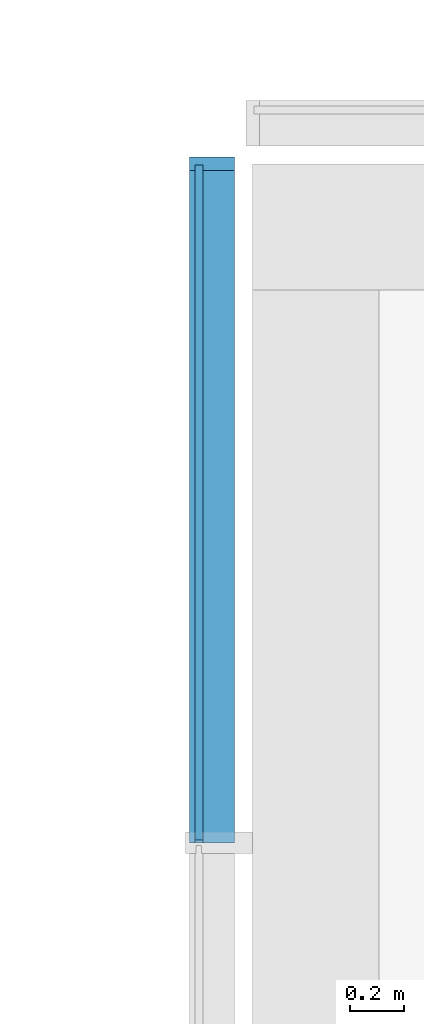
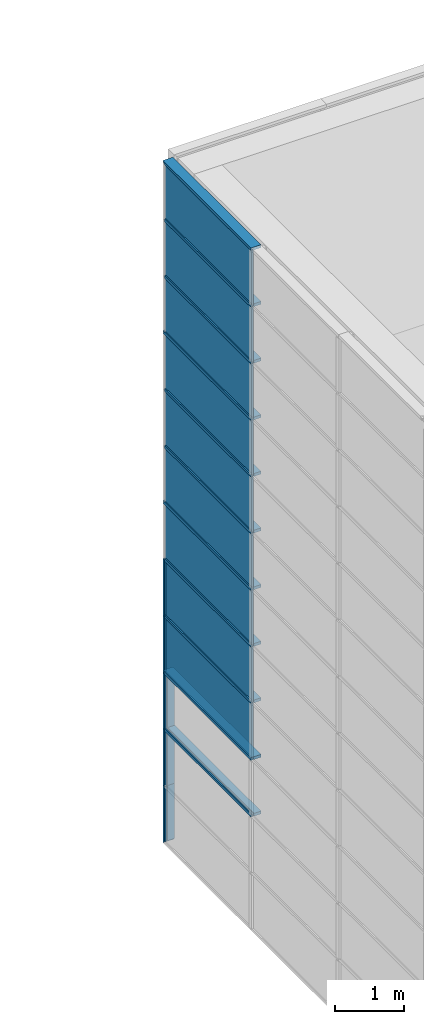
# One storey, part 38 of 105: 28 building element parts, 4 elements without a shape of their own.
"""IFC4 building model written with IfcOpenShell, lengths in millimetres."""

from ifc_helpers import new_model, entity, si_unit, converted_unit, derived_unit, direction, frame, origin_with_axes, place, context, subcontext, project, spatial, triangles, material, element, aggregate, save


model = new_model("IFC4")

# Units and contexts
model_context = context("Model", 3, precision=1e-05, world=origin_with_axes(), true_north=direction((0.0, 1.0)))
body_context = subcontext(model_context, "Body", "Model", "MODEL_VIEW")
ifc_project = project(units=[si_unit("LENGTHUNIT", "METRE", prefix="MILLI"), si_unit("AREAUNIT", "SQUARE_METRE"), si_unit("VOLUMEUNIT", "CUBIC_METRE"), converted_unit("PLANEANGLEUNIT", "DEGREE", entity("IfcLengthMeasure", 0.017453), si_unit("PLANEANGLEUNIT", "RADIAN"), dimensions=[0, 0, 0, 0, 0, 0, 0]), si_unit("SOLIDANGLEUNIT", "STERADIAN"), si_unit("MASSUNIT", "GRAM"), si_unit("TIMEUNIT", "SECOND"), si_unit("THERMODYNAMICTEMPERATUREUNIT", "DEGREE_CELSIUS"), si_unit("LUMINOUSINTENSITYUNIT", "LUMEN"), si_unit("POWERUNIT", "WATT"), derived_unit("THERMALTRANSMITTANCEUNIT", [(si_unit("POWERUNIT", "WATT"), 1), (si_unit("THERMODYNAMICTEMPERATUREUNIT", "KELVIN"), -1), (si_unit("AREAUNIT", "SQUARE_METRE"), -1)])], contexts=[model_context])

# Site, building, storey
site_placement = place(None, origin_with_axes())
site = spatial("IfcSite", under=ifc_project, at=site_placement, Name="Default Site", CompositionType="ELEMENT")
building_placement = place(site_placement, origin_with_axes())
building = spatial("IfcBuilding", under=site, at=building_placement, Name="Default Building", CompositionType="ELEMENT")
storey_placement = place(building_placement, origin_with_axes())
storey = spatial("IfcBuildingStorey", under=building, at=storey_placement, Name="OG - Story", CompositionType="ELEMENT", Elevation=0.0)

# Curtain wall, building element parts
curtain_wall_1_placement = place(storey_placement, origin_with_axes())
curtain_wall_1 = element("IfcCurtainWall", 1, at=curtain_wall_1_placement, inside=storey, Name="Fassade-003", PredefinedType="NOTDEFINED")
ifc_material_1 = material(Name="Blech")
building_element_part_1_placement = place(curtain_wall_1_placement, frame((31551.391327, -51326.104944, 0.0), z_axis=(0.0, 0.0, 1.0), x_axis=(1.0, 0.0, 0.0)))
building_element_part_1 = element("IfcBuildingElementPart", 2, at=building_element_part_1_placement, material=ifc_material_1, Name="Blech", PredefinedType="NOTDEFINED", context=body_context, shape_type="Tessellation", body=[
    triangles([(15.0, 46711.842, 1000.0), (133.0, 46711.842, 1000.0), (15.0, 46731.842, 1000.0), (133.0, 46761.842, 1000.0), (-14.999, 46731.842, 1000.0), (-34.999, 46761.842, 1000.0), (-14.999, 46711.842, 1000.0), (-34.999, 46711.842, 1000.0), (15.0, 46731.842, 5.0), (15.0, 46711.842, 25.0), (133.0, 46711.842, 25.0), (133.0, 46761.842, -24.999), (-34.999, 46761.842, -24.999), (-34.999, 46711.842, 25.0), (-14.999, 46711.842, 25.0), (-14.999, 46731.842, 5.0)], [[1, 2, 3], [3, 2, 4], [3, 4, 5], [5, 4, 6], [5, 6, 7], [7, 6, 8], [3, 9, 10], [3, 10, 1], [10, 11, 2], [10, 2, 1], [2, 11, 12], [2, 12, 4], [4, 12, 13], [4, 13, 6], [6, 13, 14], [6, 14, 8], [7, 8, 14], [7, 14, 15], [15, 16, 5], [15, 5, 7], [5, 16, 9], [5, 9, 3], [16, 9, 12], [16, 12, 13], [16, 13, 14], [16, 14, 15], [11, 12, 9], [11, 9, 10]], closed=False),
])
building_element_part_2_placement = place(curtain_wall_1_placement, frame((31551.391327, -51326.104944, 0.0), z_axis=(0.0, 0.0, 1.0), x_axis=(1.0, 0.0, 0.0)))
building_element_part_2 = element("IfcBuildingElementPart", 3, at=building_element_part_2_placement, material=ifc_material_1, Name="Blech", PredefinedType="NOTDEFINED", context=body_context, shape_type="Tessellation", body=[
    triangles([(15.0, 46711.842, 2000.0), (133.0, 46711.842, 2000.0), (15.0, 46731.842, 2000.0), (133.0, 46761.842, 2000.0), (-14.999, 46731.842, 2000.0), (-34.999, 46761.842, 2000.0), (-14.999, 46711.842, 2000.0), (-34.999, 46711.842, 2000.0), (15.0, 46731.842, 1000.0), (15.0, 46711.842, 1000.0), (133.0, 46711.842, 1000.0), (133.0, 46761.842, 1000.0), (-34.999, 46761.842, 1000.0), (-34.999, 46711.842, 1000.0), (-14.999, 46711.842, 1000.0), (-14.999, 46731.842, 1000.0)], [[1, 2, 3], [3, 2, 4], [3, 4, 5], [5, 4, 6], [5, 6, 7], [7, 6, 8], [3, 9, 10], [3, 10, 1], [10, 11, 2], [10, 2, 1], [11, 12, 4], [11, 4, 2], [12, 13, 6], [12, 6, 4], [13, 14, 8], [13, 8, 6], [7, 8, 14], [7, 14, 15], [15, 16, 5], [15, 5, 7], [5, 16, 9], [5, 9, 3], [10, 11, 9], [9, 11, 12], [9, 12, 16], [16, 12, 13], [16, 13, 15], [15, 13, 14]], closed=False),
])
building_element_part_3_placement = place(curtain_wall_1_placement, frame((31551.391327, -51326.104944, 0.0), z_axis=(0.0, 0.0, 1.0), x_axis=(1.0, 0.0, 0.0)))
building_element_part_3 = element("IfcBuildingElementPart", 4, at=building_element_part_3_placement, material=ifc_material_1, Name="Blech", PredefinedType="NOTDEFINED", context=body_context, shape_type="Tessellation", body=[
    triangles([(-14.999, 46711.842, 2025.0), (-34.999, 46711.842, 2025.0), (-14.999, 46711.842, 2005.0), (-14.999, 46711.842, 1995.0), (15.0, 46711.842, 2005.0), (133.0, 46711.842, 2025.0), (15.0, 46711.842, 2025.0), (-34.999, 46711.842, 1975.0), (-14.999, 46711.842, 1975.0), (15.0, 46711.842, 1995.0), (15.0, 46711.842, 1975.0), (133.0, 46711.842, 1975.0), (15.0, 44210.526, 1995.0), (-14.999, 44210.526, 1995.0), (-14.999, 44210.526, 1975.0), (-34.999, 44210.526, 1975.0), (-34.999, 44210.526, 2025.0), (-14.999, 44210.526, 2025.0), (-14.999, 44210.526, 2005.0), (15.0, 44210.526, 2005.0), (15.0, 44210.526, 2025.0), (133.0, 44210.526, 2025.0), (133.0, 44210.526, 1975.0), (15.0, 44210.526, 1975.0)], [[1, 2, 3], [3, 2, 4], [3, 4, 5], [5, 4, 6], [5, 6, 7], [8, 9, 4], [8, 4, 2], [6, 4, 10], [6, 10, 11], [6, 11, 12], [10, 13, 14], [10, 14, 4], [4, 14, 15], [4, 15, 9], [15, 16, 8], [15, 8, 9], [8, 16, 17], [8, 17, 2], [18, 1, 2], [18, 2, 17], [1, 18, 19], [1, 19, 3], [5, 3, 19], [5, 19, 20], [7, 5, 20], [7, 20, 21], [7, 21, 22], [7, 22, 6], [6, 22, 23], [6, 23, 12], [11, 12, 23], [11, 23, 24], [11, 24, 13], [11, 13, 10], [21, 22, 20], [20, 22, 13], [20, 13, 19], [19, 13, 14], [19, 14, 17], [17, 14, 15], [17, 15, 16], [23, 24, 13], [23, 13, 22], [19, 17, 18]], closed=False),
])
building_element_part_4_placement = place(curtain_wall_1_placement, frame((31551.391327, -51326.104944, 0.0), z_axis=(0.0, 0.0, 1.0), x_axis=(1.0, 0.0, 0.0)))
building_element_part_4 = element("IfcBuildingElementPart", 5, at=building_element_part_4_placement, material=ifc_material_1, Name="Blech", PredefinedType="NOTDEFINED", context=body_context, shape_type="Tessellation", body=[
    triangles([(-14.999, 46731.842, 2995.0), (15.0, 46731.842, 2995.0), (133.0, 46761.842, 3025.0), (-34.999, 46761.842, 3025.0), (-34.999, 46711.842, 2975.0), (-14.999, 46711.842, 2975.0), (15.0, 46711.842, 2975.0), (133.0, 46711.842, 2975.0), (15.0, 46731.842, 2000.0), (15.0, 46711.842, 2000.0), (133.0, 46711.842, 2000.0), (133.0, 46761.842, 2000.0), (-34.999, 46761.842, 2000.0), (-34.999, 46711.842, 2000.0), (-14.999, 46711.842, 2000.0), (-14.999, 46731.842, 2000.0)], [[1, 2, 3], [1, 3, 4], [1, 4, 5], [1, 5, 6], [7, 8, 3], [7, 3, 2], [2, 9, 10], [2, 10, 7], [10, 11, 8], [10, 8, 7], [11, 12, 3], [11, 3, 8], [12, 13, 4], [12, 4, 3], [13, 14, 5], [13, 5, 4], [6, 5, 14], [6, 14, 15], [15, 16, 1], [15, 1, 6], [1, 16, 9], [1, 9, 2], [10, 11, 9], [9, 11, 12], [9, 12, 16], [16, 12, 13], [16, 13, 15], [15, 13, 14]], closed=False),
])
building_element_part_5_placement = place(curtain_wall_1_placement, frame((31551.391327, -51326.104944, 0.0), z_axis=(0.0, 0.0, 1.0), x_axis=(1.0, 0.0, 0.0)))
building_element_part_5 = element("IfcBuildingElementPart", 6, at=building_element_part_5_placement, material=ifc_material_1, Name="Blech", PredefinedType="NOTDEFINED", context=body_context, shape_type="Tessellation", body=[
    triangles([(-14.999, 46731.842, 2995.0), (15.0, 46731.842, 2995.0), (133.0, 46761.842, 3025.0), (-34.999, 46761.842, 3025.0), (-34.999, 46711.842, 2975.0), (-14.999, 46711.842, 2975.0), (15.0, 46711.842, 2975.0), (133.0, 46711.842, 2975.0), (15.0, 44210.526, 2995.0), (-14.999, 44210.526, 2995.0), (-14.999, 44210.526, 2975.0), (-34.999, 44210.526, 2975.0), (-34.999, 44210.526, 3025.0), (133.0, 44210.526, 3025.0), (133.0, 44210.526, 2975.0), (15.0, 44210.526, 2975.0)], [[1, 2, 3], [1, 3, 4], [1, 4, 5], [1, 5, 6], [7, 8, 3], [7, 3, 2], [1, 2, 9], [1, 9, 10], [11, 6, 1], [11, 1, 10], [6, 11, 12], [6, 12, 5], [13, 4, 5], [13, 5, 12], [14, 3, 4], [14, 4, 13], [15, 8, 3], [15, 3, 14], [16, 7, 8], [16, 8, 15], [2, 7, 16], [2, 16, 9], [10, 9, 14], [10, 14, 13], [10, 13, 12], [10, 12, 11], [16, 15, 14], [16, 14, 9]], closed=False),
])
aggregate(curtain_wall_1, [building_element_part_1, building_element_part_2, building_element_part_3, building_element_part_4, building_element_part_5])

curtain_wall_2_placement = place(storey_placement, origin_with_axes())
curtain_wall_2 = element("IfcCurtainWall", 7, at=curtain_wall_2_placement, inside=storey, Name="Fassade-003", PredefinedType="NOTDEFINED")
ifc_material_2 = material(Name="Normalglas")
building_element_part_6_placement = place(curtain_wall_2_placement, frame((31551.391327, -51326.104944, 3000.0), z_axis=(0.0, 0.0, 1.0), x_axis=(1.0, 0.0, 0.0)))
building_element_part_6 = element("IfcBuildingElementPart", 8, at=building_element_part_6_placement, material=ifc_material_2, Name="Normalglas", PredefinedType="NOTDEFINED", context=body_context, shape_type="Tessellation", body=[
    triangles([(15.0, 46731.842, 995.0), (-14.999, 46731.842, 995.0), (-14.999, 44220.526, 995.0), (15.0, 44220.526, 995.0), (15.0, 46731.842, 5.0), (-14.999, 46731.842, 5.0), (-14.999, 44220.526, 5.0), (15.0, 44220.526, 5.0)], [[1, 2, 3], [1, 3, 4], [5, 6, 2], [5, 2, 1], [2, 6, 7], [2, 7, 3], [4, 3, 7], [4, 7, 8], [1, 4, 8], [1, 8, 5], [8, 7, 6], [8, 6, 5]], closed=False),
])
building_element_part_7_placement = place(curtain_wall_2_placement, frame((31551.391327, -51326.104944, 3000.0), z_axis=(0.0, 0.0, 1.0), x_axis=(1.0, 0.0, 0.0)))
building_element_part_7 = element("IfcBuildingElementPart", 9, at=building_element_part_7_placement, material=ifc_material_2, Name="Normalglas", PredefinedType="NOTDEFINED", context=body_context, shape_type="Tessellation", body=[
    triangles([(15.0, 46731.842, 1995.0), (-14.999, 46731.842, 1995.0), (-14.999, 44220.526, 1995.0), (15.0, 44220.526, 1995.0), (15.0, 46731.842, 1005.0), (-14.999, 46731.842, 1005.0), (-14.999, 44220.526, 1005.0), (15.0, 44220.526, 1005.0)], [[1, 2, 3], [1, 3, 4], [5, 6, 2], [5, 2, 1], [2, 6, 7], [2, 7, 3], [4, 3, 7], [4, 7, 8], [1, 4, 8], [1, 8, 5], [8, 7, 6], [8, 6, 5]], closed=False),
])
building_element_part_8_placement = place(curtain_wall_2_placement, frame((31551.391327, -51326.104944, 3000.0), z_axis=(0.0, 0.0, 1.0), x_axis=(1.0, 0.0, 0.0)))
building_element_part_8 = element("IfcBuildingElementPart", 10, at=building_element_part_8_placement, material=ifc_material_2, Name="Normalglas", PredefinedType="NOTDEFINED", context=body_context, shape_type="Tessellation", body=[
    triangles([(15.0, 46731.842, 2995.0), (-14.999, 46731.842, 2995.0), (-14.999, 44220.526, 2995.0), (15.0, 44220.526, 2995.0), (15.0, 46731.842, 2005.0), (-14.999, 46731.842, 2005.0), (-14.999, 44220.526, 2005.0), (15.0, 44220.526, 2005.0)], [[1, 2, 3], [1, 3, 4], [5, 6, 2], [5, 2, 1], [2, 6, 7], [2, 7, 3], [4, 3, 7], [4, 7, 8], [1, 4, 8], [1, 8, 5], [8, 7, 6], [8, 6, 5]], closed=False),
])
building_element_part_9_placement = place(curtain_wall_2_placement, frame((31551.391327, -51326.104944, 3000.0), z_axis=(0.0, 0.0, 1.0), x_axis=(1.0, 0.0, 0.0)))
building_element_part_9 = element("IfcBuildingElementPart", 11, at=building_element_part_9_placement, material=ifc_material_1, Name="Blech", PredefinedType="NOTDEFINED", context=body_context, shape_type="Tessellation", body=[
    triangles([(15.0, 46711.842, 25.0), (133.0, 46711.842, 25.0), (15.0, 46731.842, 5.0), (133.0, 46761.842, -24.999), (-14.999, 46731.842, 5.0), (-34.999, 46761.842, -24.999), (-34.999, 46711.842, 25.0), (-14.999, 46711.842, 25.0), (15.0, 44210.526, 5.0), (15.0, 44210.526, 25.0), (133.0, 44210.526, 25.0), (133.0, 44210.526, -24.999), (-34.999, 44210.526, -24.999), (-34.999, 44210.526, 25.0), (-14.999, 44210.526, 25.0), (-14.999, 44210.526, 5.0)], [[1, 2, 3], [3, 2, 4], [3, 4, 5], [5, 4, 6], [5, 6, 7], [5, 7, 8], [3, 9, 10], [3, 10, 1], [10, 11, 2], [10, 2, 1], [11, 12, 4], [11, 4, 2], [12, 13, 6], [12, 6, 4], [13, 14, 7], [13, 7, 6], [8, 7, 14], [8, 14, 15], [15, 16, 5], [15, 5, 8], [5, 16, 9], [5, 9, 3], [16, 9, 12], [16, 12, 13], [16, 13, 14], [16, 14, 15], [11, 12, 9], [11, 9, 10]], closed=False),
])
building_element_part_10_placement = place(curtain_wall_2_placement, frame((31551.391327, -51326.104944, 3000.0), z_axis=(0.0, 0.0, 1.0), x_axis=(1.0, 0.0, 0.0)))
building_element_part_10 = element("IfcBuildingElementPart", 12, at=building_element_part_10_placement, material=ifc_material_1, Name="Blech", PredefinedType="NOTDEFINED", context=body_context, shape_type="Tessellation", body=[
    triangles([(15.0, 46711.842, 1000.0), (133.0, 46711.842, 1000.0), (15.0, 46731.842, 1000.0), (133.0, 46761.842, 1000.0), (-14.999, 46731.842, 1000.0), (-34.999, 46761.842, 1000.0), (-14.999, 46711.842, 1000.0), (-34.999, 46711.842, 1000.0), (15.0, 46731.842, 5.0), (15.0, 46711.842, 25.0), (133.0, 46711.842, 25.0), (133.0, 46761.842, -24.999), (-34.999, 46761.842, -24.999), (-34.999, 46711.842, 25.0), (-14.999, 46711.842, 25.0), (-14.999, 46731.842, 5.0)], [[1, 2, 3], [3, 2, 4], [3, 4, 5], [5, 4, 6], [5, 6, 7], [7, 6, 8], [3, 9, 10], [3, 10, 1], [10, 11, 2], [10, 2, 1], [2, 11, 12], [2, 12, 4], [4, 12, 13], [4, 13, 6], [6, 13, 14], [6, 14, 8], [7, 8, 14], [7, 14, 15], [15, 16, 5], [15, 5, 7], [5, 16, 9], [5, 9, 3], [16, 9, 12], [16, 12, 13], [16, 13, 14], [16, 14, 15], [11, 12, 9], [11, 9, 10]], closed=False),
])
building_element_part_11_placement = place(curtain_wall_2_placement, frame((31551.391327, -51326.104944, 3000.0), z_axis=(0.0, 0.0, 1.0), x_axis=(1.0, 0.0, 0.0)))
building_element_part_11 = element("IfcBuildingElementPart", 13, at=building_element_part_11_placement, material=ifc_material_1, Name="Blech", PredefinedType="NOTDEFINED", context=body_context, shape_type="Tessellation", body=[
    triangles([(-14.999, 46711.842, 1025.0), (-34.999, 46711.842, 1025.0), (-14.999, 46711.842, 1005.0), (-14.999, 46711.842, 995.0), (15.0, 46711.842, 1005.0), (133.0, 46711.842, 1025.0), (15.0, 46711.842, 1025.0), (-34.999, 46711.842, 975.0), (-14.999, 46711.842, 975.0), (15.0, 46711.842, 995.0), (15.0, 46711.842, 975.0), (133.0, 46711.842, 975.0), (15.0, 44210.526, 995.0), (-14.999, 44210.526, 995.0), (-14.999, 44210.526, 975.0), (-34.999, 44210.526, 975.0), (-34.999, 44210.526, 1025.0), (-14.999, 44210.526, 1025.0), (-14.999, 44210.526, 1005.0), (15.0, 44210.526, 1005.0), (15.0, 44210.526, 1025.0), (133.0, 44210.526, 1025.0), (133.0, 44210.526, 975.0), (15.0, 44210.526, 975.0)], [[1, 2, 3], [3, 2, 4], [3, 4, 5], [5, 4, 6], [5, 6, 7], [8, 9, 4], [8, 4, 2], [6, 4, 10], [6, 10, 11], [6, 11, 12], [10, 13, 14], [10, 14, 4], [4, 14, 15], [4, 15, 9], [15, 16, 8], [15, 8, 9], [8, 16, 17], [8, 17, 2], [18, 1, 2], [18, 2, 17], [1, 18, 19], [1, 19, 3], [5, 3, 19], [5, 19, 20], [7, 5, 20], [7, 20, 21], [7, 21, 22], [7, 22, 6], [6, 22, 23], [6, 23, 12], [11, 12, 23], [11, 23, 24], [11, 24, 13], [11, 13, 10], [21, 22, 20], [20, 22, 13], [20, 13, 19], [19, 13, 14], [19, 14, 17], [17, 14, 15], [17, 15, 16], [23, 24, 13], [23, 13, 22], [19, 17, 18]], closed=False),
])
building_element_part_12_placement = place(curtain_wall_2_placement, frame((31551.391327, -51326.104944, 3000.0), z_axis=(0.0, 0.0, 1.0), x_axis=(1.0, 0.0, 0.0)))
building_element_part_12 = element("IfcBuildingElementPart", 14, at=building_element_part_12_placement, material=ifc_material_1, Name="Blech", PredefinedType="NOTDEFINED", context=body_context, shape_type="Tessellation", body=[
    triangles([(15.0, 46711.842, 2000.0), (133.0, 46711.842, 2000.0), (15.0, 46731.842, 2000.0), (133.0, 46761.842, 2000.0), (-14.999, 46731.842, 2000.0), (-34.999, 46761.842, 2000.0), (-14.999, 46711.842, 2000.0), (-34.999, 46711.842, 2000.0), (15.0, 46731.842, 1000.0), (15.0, 46711.842, 1000.0), (133.0, 46711.842, 1000.0), (133.0, 46761.842, 1000.0), (-34.999, 46761.842, 1000.0), (-34.999, 46711.842, 1000.0), (-14.999, 46711.842, 1000.0), (-14.999, 46731.842, 1000.0)], [[1, 2, 3], [3, 2, 4], [3, 4, 5], [5, 4, 6], [5, 6, 7], [7, 6, 8], [3, 9, 10], [3, 10, 1], [10, 11, 2], [10, 2, 1], [11, 12, 4], [11, 4, 2], [12, 13, 6], [12, 6, 4], [13, 14, 8], [13, 8, 6], [7, 8, 14], [7, 14, 15], [15, 16, 5], [15, 5, 7], [5, 16, 9], [5, 9, 3], [10, 11, 9], [9, 11, 12], [9, 12, 16], [16, 12, 13], [16, 13, 15], [15, 13, 14]], closed=False),
])
building_element_part_13_placement = place(curtain_wall_2_placement, frame((31551.391327, -51326.104944, 3000.0), z_axis=(0.0, 0.0, 1.0), x_axis=(1.0, 0.0, 0.0)))
building_element_part_13 = element("IfcBuildingElementPart", 15, at=building_element_part_13_placement, material=ifc_material_1, Name="Blech", PredefinedType="NOTDEFINED", context=body_context, shape_type="Tessellation", body=[
    triangles([(-14.999, 46711.842, 2025.0), (-34.999, 46711.842, 2025.0), (-14.999, 46711.842, 2005.0), (-14.999, 46711.842, 1995.0), (15.0, 46711.842, 2005.0), (133.0, 46711.842, 2025.0), (15.0, 46711.842, 2025.0), (-34.999, 46711.842, 1975.0), (-14.999, 46711.842, 1975.0), (15.0, 46711.842, 1995.0), (15.0, 46711.842, 1975.0), (133.0, 46711.842, 1975.0), (15.0, 44210.526, 1995.0), (-14.999, 44210.526, 1995.0), (-14.999, 44210.526, 1975.0), (-34.999, 44210.526, 1975.0), (-34.999, 44210.526, 2025.0), (-14.999, 44210.526, 2025.0), (-14.999, 44210.526, 2005.0), (15.0, 44210.526, 2005.0), (15.0, 44210.526, 2025.0), (133.0, 44210.526, 2025.0), (133.0, 44210.526, 1975.0), (15.0, 44210.526, 1975.0)], [[1, 2, 3], [3, 2, 4], [3, 4, 5], [5, 4, 6], [5, 6, 7], [8, 9, 4], [8, 4, 2], [6, 4, 10], [6, 10, 11], [6, 11, 12], [10, 13, 14], [10, 14, 4], [4, 14, 15], [4, 15, 9], [15, 16, 8], [15, 8, 9], [8, 16, 17], [8, 17, 2], [18, 1, 2], [18, 2, 17], [1, 18, 19], [1, 19, 3], [5, 3, 19], [5, 19, 20], [7, 5, 20], [7, 20, 21], [7, 21, 22], [7, 22, 6], [6, 22, 23], [6, 23, 12], [11, 12, 23], [11, 23, 24], [11, 24, 13], [11, 13, 10], [21, 22, 20], [20, 22, 13], [20, 13, 19], [19, 13, 14], [19, 14, 17], [17, 14, 15], [17, 15, 16], [23, 24, 13], [23, 13, 22], [19, 17, 18]], closed=False),
])
building_element_part_14_placement = place(curtain_wall_2_placement, frame((31551.391327, -51326.104944, 3000.0), z_axis=(0.0, 0.0, 1.0), x_axis=(1.0, 0.0, 0.0)))
building_element_part_14 = element("IfcBuildingElementPart", 16, at=building_element_part_14_placement, material=ifc_material_1, Name="Blech", PredefinedType="NOTDEFINED", context=body_context, shape_type="Tessellation", body=[
    triangles([(-14.999, 46731.842, 2995.0), (15.0, 46731.842, 2995.0), (133.0, 46761.842, 3025.0), (-34.999, 46761.842, 3025.0), (-34.999, 46711.842, 2975.0), (-14.999, 46711.842, 2975.0), (15.0, 46711.842, 2975.0), (133.0, 46711.842, 2975.0), (15.0, 44210.526, 2995.0), (-14.999, 44210.526, 2995.0), (-14.999, 44210.526, 2975.0), (-34.999, 44210.526, 2975.0), (-34.999, 44210.526, 3025.0), (133.0, 44210.526, 3025.0), (133.0, 44210.526, 2975.0), (15.0, 44210.526, 2975.0)], [[1, 2, 3], [1, 3, 4], [1, 4, 5], [1, 5, 6], [7, 8, 3], [7, 3, 2], [1, 2, 9], [1, 9, 10], [11, 6, 1], [11, 1, 10], [6, 11, 12], [6, 12, 5], [13, 4, 5], [13, 5, 12], [14, 3, 4], [14, 4, 13], [15, 8, 3], [15, 3, 14], [16, 7, 8], [16, 8, 15], [2, 7, 16], [2, 16, 9], [10, 9, 14], [10, 14, 13], [10, 13, 12], [10, 12, 11], [16, 15, 14], [16, 14, 9]], closed=False),
])
aggregate(curtain_wall_2, [building_element_part_6, building_element_part_7, building_element_part_8, building_element_part_9, building_element_part_10, building_element_part_11, building_element_part_12, building_element_part_13, building_element_part_14])

curtain_wall_3_placement = place(storey_placement, origin_with_axes())
curtain_wall_3 = element("IfcCurtainWall", 17, at=curtain_wall_3_placement, inside=storey, Name="Fassade-003", PredefinedType="NOTDEFINED")
building_element_part_15_placement = place(curtain_wall_3_placement, frame((31551.391327, -51326.104944, 6000.0), z_axis=(0.0, 0.0, 1.0), x_axis=(1.0, 0.0, 0.0)))
building_element_part_15 = element("IfcBuildingElementPart", 18, at=building_element_part_15_placement, material=ifc_material_2, Name="Normalglas", PredefinedType="NOTDEFINED", context=body_context, shape_type="Tessellation", body=[
    triangles([(15.0, 46731.842, 995.0), (-14.999, 46731.842, 995.0), (-14.999, 44220.526, 995.0), (15.0, 44220.526, 995.0), (15.0, 46731.842, 5.0), (-14.999, 46731.842, 5.0), (-14.999, 44220.526, 5.0), (15.0, 44220.526, 5.0)], [[1, 2, 3], [1, 3, 4], [5, 6, 2], [5, 2, 1], [2, 6, 7], [2, 7, 3], [4, 3, 7], [4, 7, 8], [1, 4, 8], [1, 8, 5], [8, 7, 6], [8, 6, 5]], closed=False),
])
building_element_part_16_placement = place(curtain_wall_3_placement, frame((31551.391327, -51326.104944, 6000.0), z_axis=(0.0, 0.0, 1.0), x_axis=(1.0, 0.0, 0.0)))
building_element_part_16 = element("IfcBuildingElementPart", 19, at=building_element_part_16_placement, material=ifc_material_2, Name="Normalglas", PredefinedType="NOTDEFINED", context=body_context, shape_type="Tessellation", body=[
    triangles([(15.0, 46731.842, 1995.0), (-14.999, 46731.842, 1995.0), (-14.999, 44220.526, 1995.0), (15.0, 44220.526, 1995.0), (15.0, 46731.842, 1005.0), (-14.999, 46731.842, 1005.0), (-14.999, 44220.526, 1005.0), (15.0, 44220.526, 1005.0)], [[1, 2, 3], [1, 3, 4], [5, 6, 2], [5, 2, 1], [2, 6, 7], [2, 7, 3], [4, 3, 7], [4, 7, 8], [1, 4, 8], [1, 8, 5], [8, 7, 6], [8, 6, 5]], closed=False),
])
building_element_part_17_placement = place(curtain_wall_3_placement, frame((31551.391327, -51326.104944, 6000.0), z_axis=(0.0, 0.0, 1.0), x_axis=(1.0, 0.0, 0.0)))
building_element_part_17 = element("IfcBuildingElementPart", 20, at=building_element_part_17_placement, material=ifc_material_2, Name="Normalglas", PredefinedType="NOTDEFINED", context=body_context, shape_type="Tessellation", body=[
    triangles([(15.0, 46731.842, 2995.0), (-14.999, 46731.842, 2995.0), (-14.999, 44220.526, 2995.0), (15.0, 44220.526, 2995.0), (15.0, 46731.842, 2005.0), (-14.999, 46731.842, 2005.0), (-14.999, 44220.526, 2005.0), (15.0, 44220.526, 2005.0)], [[1, 2, 3], [1, 3, 4], [5, 6, 2], [5, 2, 1], [2, 6, 7], [2, 7, 3], [4, 3, 7], [4, 7, 8], [1, 4, 8], [1, 8, 5], [8, 7, 6], [8, 6, 5]], closed=False),
])
building_element_part_18_placement = place(curtain_wall_3_placement, frame((31551.391327, -51326.104944, 6000.0), z_axis=(0.0, 0.0, 1.0), x_axis=(1.0, 0.0, 0.0)))
building_element_part_18 = element("IfcBuildingElementPart", 21, at=building_element_part_18_placement, material=ifc_material_1, Name="Blech", PredefinedType="NOTDEFINED", context=body_context, shape_type="Tessellation", body=[
    triangles([(15.0, 46711.842, 25.0), (133.0, 46711.842, 25.0), (15.0, 46731.842, 5.0), (133.0, 46761.842, -24.999), (-14.999, 46731.842, 5.0), (-34.999, 46761.842, -24.999), (-34.999, 46711.842, 25.0), (-14.999, 46711.842, 25.0), (15.0, 44210.526, 5.0), (15.0, 44210.526, 25.0), (133.0, 44210.526, 25.0), (133.0, 44210.526, -24.999), (-34.999, 44210.526, -24.999), (-34.999, 44210.526, 25.0), (-14.999, 44210.526, 25.0), (-14.999, 44210.526, 5.0)], [[1, 2, 3], [3, 2, 4], [3, 4, 5], [5, 4, 6], [5, 6, 7], [5, 7, 8], [3, 9, 10], [3, 10, 1], [10, 11, 2], [10, 2, 1], [11, 12, 4], [11, 4, 2], [12, 13, 6], [12, 6, 4], [13, 14, 7], [13, 7, 6], [8, 7, 14], [8, 14, 15], [15, 16, 5], [15, 5, 8], [5, 16, 9], [5, 9, 3], [16, 9, 12], [16, 12, 13], [16, 13, 14], [16, 14, 15], [11, 12, 9], [11, 9, 10]], closed=False),
])
building_element_part_19_placement = place(curtain_wall_3_placement, frame((31551.391327, -51326.104944, 6000.0), z_axis=(0.0, 0.0, 1.0), x_axis=(1.0, 0.0, 0.0)))
building_element_part_19 = element("IfcBuildingElementPart", 22, at=building_element_part_19_placement, material=ifc_material_1, Name="Blech", PredefinedType="NOTDEFINED", context=body_context, shape_type="Tessellation", body=[
    triangles([(-14.999, 46711.842, 1025.0), (-34.999, 46711.842, 1025.0), (-14.999, 46711.842, 1005.0), (-14.999, 46711.842, 995.0), (15.0, 46711.842, 1005.0), (133.0, 46711.842, 1025.0), (15.0, 46711.842, 1025.0), (-34.999, 46711.842, 975.0), (-14.999, 46711.842, 975.0), (15.0, 46711.842, 995.0), (15.0, 46711.842, 975.0), (133.0, 46711.842, 975.0), (15.0, 44210.526, 995.0), (-14.999, 44210.526, 995.0), (-14.999, 44210.526, 975.0), (-34.999, 44210.526, 975.0), (-34.999, 44210.526, 1025.0), (-14.999, 44210.526, 1025.0), (-14.999, 44210.526, 1005.0), (15.0, 44210.526, 1005.0), (15.0, 44210.526, 1025.0), (133.0, 44210.526, 1025.0), (133.0, 44210.526, 975.0), (15.0, 44210.526, 975.0)], [[1, 2, 3], [3, 2, 4], [3, 4, 5], [5, 4, 6], [5, 6, 7], [8, 9, 4], [8, 4, 2], [6, 4, 10], [6, 10, 11], [6, 11, 12], [10, 13, 14], [10, 14, 4], [4, 14, 15], [4, 15, 9], [15, 16, 8], [15, 8, 9], [8, 16, 17], [8, 17, 2], [18, 1, 2], [18, 2, 17], [1, 18, 19], [1, 19, 3], [5, 3, 19], [5, 19, 20], [7, 5, 20], [7, 20, 21], [7, 21, 22], [7, 22, 6], [6, 22, 23], [6, 23, 12], [11, 12, 23], [11, 23, 24], [11, 24, 13], [11, 13, 10], [21, 22, 20], [20, 22, 13], [20, 13, 19], [19, 13, 14], [19, 14, 17], [17, 14, 15], [17, 15, 16], [23, 24, 13], [23, 13, 22], [19, 17, 18]], closed=False),
])
building_element_part_20_placement = place(curtain_wall_3_placement, frame((31551.391327, -51326.104944, 6000.0), z_axis=(0.0, 0.0, 1.0), x_axis=(1.0, 0.0, 0.0)))
building_element_part_20 = element("IfcBuildingElementPart", 23, at=building_element_part_20_placement, material=ifc_material_1, Name="Blech", PredefinedType="NOTDEFINED", context=body_context, shape_type="Tessellation", body=[
    triangles([(-14.999, 46711.842, 2025.0), (-34.999, 46711.842, 2025.0), (-14.999, 46711.842, 2005.0), (-14.999, 46711.842, 1995.0), (15.0, 46711.842, 2005.0), (133.0, 46711.842, 2025.0), (15.0, 46711.842, 2025.0), (-34.999, 46711.842, 1975.0), (-14.999, 46711.842, 1975.0), (15.0, 46711.842, 1995.0), (15.0, 46711.842, 1975.0), (133.0, 46711.842, 1975.0), (15.0, 44210.526, 1995.0), (-14.999, 44210.526, 1995.0), (-14.999, 44210.526, 1975.0), (-34.999, 44210.526, 1975.0), (-34.999, 44210.526, 2025.0), (-14.999, 44210.526, 2025.0), (-14.999, 44210.526, 2005.0), (15.0, 44210.526, 2005.0), (15.0, 44210.526, 2025.0), (133.0, 44210.526, 2025.0), (133.0, 44210.526, 1975.0), (15.0, 44210.526, 1975.0)], [[1, 2, 3], [3, 2, 4], [3, 4, 5], [5, 4, 6], [5, 6, 7], [8, 9, 4], [8, 4, 2], [6, 4, 10], [6, 10, 11], [6, 11, 12], [10, 13, 14], [10, 14, 4], [4, 14, 15], [4, 15, 9], [15, 16, 8], [15, 8, 9], [8, 16, 17], [8, 17, 2], [18, 1, 2], [18, 2, 17], [1, 18, 19], [1, 19, 3], [5, 3, 19], [5, 19, 20], [7, 5, 20], [7, 20, 21], [7, 21, 22], [7, 22, 6], [6, 22, 23], [6, 23, 12], [11, 12, 23], [11, 23, 24], [11, 24, 13], [11, 13, 10], [21, 22, 20], [20, 22, 13], [20, 13, 19], [19, 13, 14], [19, 14, 17], [17, 14, 15], [17, 15, 16], [23, 24, 13], [23, 13, 22], [19, 17, 18]], closed=False),
])
building_element_part_21_placement = place(curtain_wall_3_placement, frame((31551.391327, -51326.104944, 6000.0), z_axis=(0.0, 0.0, 1.0), x_axis=(1.0, 0.0, 0.0)))
building_element_part_21 = element("IfcBuildingElementPart", 24, at=building_element_part_21_placement, material=ifc_material_1, Name="Blech", PredefinedType="NOTDEFINED", context=body_context, shape_type="Tessellation", body=[
    triangles([(-14.999, 46731.842, 2995.0), (15.0, 46731.842, 2995.0), (133.0, 46761.842, 3025.0), (-34.999, 46761.842, 3025.0), (-34.999, 46711.842, 2975.0), (-14.999, 46711.842, 2975.0), (15.0, 46711.842, 2975.0), (133.0, 46711.842, 2975.0), (15.0, 44210.526, 2995.0), (-14.999, 44210.526, 2995.0), (-14.999, 44210.526, 2975.0), (-34.999, 44210.526, 2975.0), (-34.999, 44210.526, 3025.0), (133.0, 44210.526, 3025.0), (133.0, 44210.526, 2975.0), (15.0, 44210.526, 2975.0)], [[1, 2, 3], [1, 3, 4], [1, 4, 5], [1, 5, 6], [7, 8, 3], [7, 3, 2], [1, 2, 9], [1, 9, 10], [11, 6, 1], [11, 1, 10], [6, 11, 12], [6, 12, 5], [13, 4, 5], [13, 5, 12], [14, 3, 4], [14, 4, 13], [15, 8, 3], [15, 3, 14], [16, 7, 8], [16, 8, 15], [2, 7, 16], [2, 16, 9], [10, 9, 14], [10, 14, 13], [10, 13, 12], [10, 12, 11], [16, 15, 14], [16, 14, 9]], closed=False),
])
aggregate(curtain_wall_3, [building_element_part_15, building_element_part_16, building_element_part_17, building_element_part_18, building_element_part_19, building_element_part_20, building_element_part_21])

curtain_wall_4_placement = place(storey_placement, origin_with_axes())
curtain_wall_4 = element("IfcCurtainWall", 25, at=curtain_wall_4_placement, inside=storey, Name="Fassade-003", PredefinedType="NOTDEFINED")
building_element_part_22_placement = place(curtain_wall_4_placement, frame((31551.391327, -51326.104944, 9000.0), z_axis=(0.0, 0.0, 1.0), x_axis=(1.0, 0.0, 0.0)))
building_element_part_22 = element("IfcBuildingElementPart", 26, at=building_element_part_22_placement, material=ifc_material_2, Name="Normalglas", PredefinedType="NOTDEFINED", context=body_context, shape_type="Tessellation", body=[
    triangles([(15.0, 46731.842, 995.0), (-14.999, 46731.842, 995.0), (-14.999, 44220.526, 995.0), (15.0, 44220.526, 995.0), (15.0, 46731.842, 5.0), (-14.999, 46731.842, 5.0), (-14.999, 44220.526, 5.0), (15.0, 44220.526, 5.0)], [[1, 2, 3], [1, 3, 4], [5, 6, 2], [5, 2, 1], [2, 6, 7], [2, 7, 3], [4, 3, 7], [4, 7, 8], [1, 4, 8], [1, 8, 5], [8, 7, 6], [8, 6, 5]], closed=False),
])
building_element_part_23_placement = place(curtain_wall_4_placement, frame((31551.391327, -51326.104944, 9000.0), z_axis=(0.0, 0.0, 1.0), x_axis=(1.0, 0.0, 0.0)))
building_element_part_23 = element("IfcBuildingElementPart", 27, at=building_element_part_23_placement, material=ifc_material_2, Name="Normalglas", PredefinedType="NOTDEFINED", context=body_context, shape_type="Tessellation", body=[
    triangles([(15.0, 46731.842, 1995.0), (-14.999, 46731.842, 1995.0), (-14.999, 44220.526, 1995.0), (15.0, 44220.526, 1995.0), (15.0, 46731.842, 1005.0), (-14.999, 46731.842, 1005.0), (-14.999, 44220.526, 1005.0), (15.0, 44220.526, 1005.0)], [[1, 2, 3], [1, 3, 4], [5, 6, 2], [5, 2, 1], [2, 6, 7], [2, 7, 3], [4, 3, 7], [4, 7, 8], [1, 4, 8], [1, 8, 5], [8, 7, 6], [8, 6, 5]], closed=False),
])
building_element_part_24_placement = place(curtain_wall_4_placement, frame((31551.391327, -51326.104944, 9000.0), z_axis=(0.0, 0.0, 1.0), x_axis=(1.0, 0.0, 0.0)))
building_element_part_24 = element("IfcBuildingElementPart", 28, at=building_element_part_24_placement, material=ifc_material_2, Name="Normalglas", PredefinedType="NOTDEFINED", context=body_context, shape_type="Tessellation", body=[
    triangles([(15.0, 46731.842, 2995.0), (-14.999, 46731.842, 2995.0), (-14.999, 44220.526, 2995.0), (15.0, 44220.526, 2995.0), (15.0, 46731.842, 2005.0), (-14.999, 46731.842, 2005.0), (-14.999, 44220.526, 2005.0), (15.0, 44220.526, 2005.0)], [[1, 2, 3], [1, 3, 4], [5, 6, 2], [5, 2, 1], [2, 6, 7], [2, 7, 3], [4, 3, 7], [4, 7, 8], [1, 4, 8], [1, 8, 5], [8, 7, 6], [8, 6, 5]], closed=False),
])
building_element_part_25_placement = place(curtain_wall_4_placement, frame((31551.391327, -51326.104944, 9000.0), z_axis=(0.0, 0.0, 1.0), x_axis=(1.0, 0.0, 0.0)))
building_element_part_25 = element("IfcBuildingElementPart", 29, at=building_element_part_25_placement, material=ifc_material_1, Name="Blech", PredefinedType="NOTDEFINED", context=body_context, shape_type="Tessellation", body=[
    triangles([(15.0, 46711.842, 25.0), (133.0, 46711.842, 25.0), (15.0, 46731.842, 5.0), (133.0, 46761.842, -24.999), (-14.999, 46731.842, 5.0), (-34.999, 46761.842, -24.999), (-34.999, 46711.842, 25.0), (-14.999, 46711.842, 25.0), (15.0, 44210.526, 5.0), (15.0, 44210.526, 25.0), (133.0, 44210.526, 25.0), (133.0, 44210.526, -24.999), (-34.999, 44210.526, -24.999), (-34.999, 44210.526, 25.0), (-14.999, 44210.526, 25.0), (-14.999, 44210.526, 5.0)], [[1, 2, 3], [3, 2, 4], [3, 4, 5], [5, 4, 6], [5, 6, 7], [5, 7, 8], [3, 9, 10], [3, 10, 1], [10, 11, 2], [10, 2, 1], [11, 12, 4], [11, 4, 2], [12, 13, 6], [12, 6, 4], [13, 14, 7], [13, 7, 6], [8, 7, 14], [8, 14, 15], [15, 16, 5], [15, 5, 8], [5, 16, 9], [5, 9, 3], [16, 9, 12], [16, 12, 13], [16, 13, 14], [16, 14, 15], [11, 12, 9], [11, 9, 10]], closed=False),
])
building_element_part_26_placement = place(curtain_wall_4_placement, frame((31551.391327, -51326.104944, 9000.0), z_axis=(0.0, 0.0, 1.0), x_axis=(1.0, 0.0, 0.0)))
building_element_part_26 = element("IfcBuildingElementPart", 30, at=building_element_part_26_placement, material=ifc_material_1, Name="Blech", PredefinedType="NOTDEFINED", context=body_context, shape_type="Tessellation", body=[
    triangles([(-14.999, 46711.842, 1025.0), (-34.999, 46711.842, 1025.0), (-14.999, 46711.842, 1005.0), (-14.999, 46711.842, 995.0), (15.0, 46711.842, 1005.0), (133.0, 46711.842, 1025.0), (15.0, 46711.842, 1025.0), (-34.999, 46711.842, 975.0), (-14.999, 46711.842, 975.0), (15.0, 46711.842, 995.0), (15.0, 46711.842, 975.0), (133.0, 46711.842, 975.0), (15.0, 44210.526, 995.0), (-14.999, 44210.526, 995.0), (-14.999, 44210.526, 975.0), (-34.999, 44210.526, 975.0), (-34.999, 44210.526, 1025.0), (-14.999, 44210.526, 1025.0), (-14.999, 44210.526, 1005.0), (15.0, 44210.526, 1005.0), (15.0, 44210.526, 1025.0), (133.0, 44210.526, 1025.0), (133.0, 44210.526, 975.0), (15.0, 44210.526, 975.0)], [[1, 2, 3], [3, 2, 4], [3, 4, 5], [5, 4, 6], [5, 6, 7], [8, 9, 4], [8, 4, 2], [6, 4, 10], [6, 10, 11], [6, 11, 12], [10, 13, 14], [10, 14, 4], [4, 14, 15], [4, 15, 9], [15, 16, 8], [15, 8, 9], [8, 16, 17], [8, 17, 2], [18, 1, 2], [18, 2, 17], [1, 18, 19], [1, 19, 3], [5, 3, 19], [5, 19, 20], [7, 5, 20], [7, 20, 21], [7, 21, 22], [7, 22, 6], [6, 22, 23], [6, 23, 12], [11, 12, 23], [11, 23, 24], [11, 24, 13], [11, 13, 10], [21, 22, 20], [20, 22, 13], [20, 13, 19], [19, 13, 14], [19, 14, 17], [17, 14, 15], [17, 15, 16], [23, 24, 13], [23, 13, 22], [19, 17, 18]], closed=False),
])
building_element_part_27_placement = place(curtain_wall_4_placement, frame((31551.391327, -51326.104944, 9000.0), z_axis=(0.0, 0.0, 1.0), x_axis=(1.0, 0.0, 0.0)))
building_element_part_27 = element("IfcBuildingElementPart", 31, at=building_element_part_27_placement, material=ifc_material_1, Name="Blech", PredefinedType="NOTDEFINED", context=body_context, shape_type="Tessellation", body=[
    triangles([(-14.999, 46711.842, 2025.0), (-34.999, 46711.842, 2025.0), (-14.999, 46711.842, 2005.0), (-14.999, 46711.842, 1995.0), (15.0, 46711.842, 2005.0), (133.0, 46711.842, 2025.0), (15.0, 46711.842, 2025.0), (-34.999, 46711.842, 1975.0), (-14.999, 46711.842, 1975.0), (15.0, 46711.842, 1995.0), (15.0, 46711.842, 1975.0), (133.0, 46711.842, 1975.0), (15.0, 44210.526, 1995.0), (-14.999, 44210.526, 1995.0), (-14.999, 44210.526, 1975.0), (-34.999, 44210.526, 1975.0), (-34.999, 44210.526, 2025.0), (-14.999, 44210.526, 2025.0), (-14.999, 44210.526, 2005.0), (15.0, 44210.526, 2005.0), (15.0, 44210.526, 2025.0), (133.0, 44210.526, 2025.0), (133.0, 44210.526, 1975.0), (15.0, 44210.526, 1975.0)], [[1, 2, 3], [3, 2, 4], [3, 4, 5], [5, 4, 6], [5, 6, 7], [8, 9, 4], [8, 4, 2], [6, 4, 10], [6, 10, 11], [6, 11, 12], [10, 13, 14], [10, 14, 4], [4, 14, 15], [4, 15, 9], [15, 16, 8], [15, 8, 9], [8, 16, 17], [8, 17, 2], [18, 1, 2], [18, 2, 17], [1, 18, 19], [1, 19, 3], [5, 3, 19], [5, 19, 20], [7, 5, 20], [7, 20, 21], [7, 21, 22], [7, 22, 6], [6, 22, 23], [6, 23, 12], [11, 12, 23], [11, 23, 24], [11, 24, 13], [11, 13, 10], [21, 22, 20], [20, 22, 13], [20, 13, 19], [19, 13, 14], [19, 14, 17], [17, 14, 15], [17, 15, 16], [23, 24, 13], [23, 13, 22], [19, 17, 18]], closed=False),
])
building_element_part_28_placement = place(curtain_wall_4_placement, frame((31551.391327, -51326.104944, 9000.0), z_axis=(0.0, 0.0, 1.0), x_axis=(1.0, 0.0, 0.0)))
building_element_part_28 = element("IfcBuildingElementPart", 32, at=building_element_part_28_placement, material=ifc_material_1, Name="Blech", PredefinedType="NOTDEFINED", context=body_context, shape_type="Tessellation", body=[
    triangles([(-14.999, 46731.842, 2995.0), (15.0, 46731.842, 2995.0), (133.0, 46761.842, 3025.0), (-34.999, 46761.842, 3025.0), (-34.999, 46711.842, 2975.0), (-14.999, 46711.842, 2975.0), (15.0, 46711.842, 2975.0), (133.0, 46711.842, 2975.0), (15.0, 44210.526, 2995.0), (-14.999, 44210.526, 2995.0), (-14.999, 44210.526, 2975.0), (-34.999, 44210.526, 2975.0), (-34.999, 44210.526, 3025.0), (133.0, 44210.526, 3025.0), (133.0, 44210.526, 2975.0), (15.0, 44210.526, 2975.0)], [[1, 2, 3], [1, 3, 4], [1, 4, 5], [1, 5, 6], [7, 8, 3], [7, 3, 2], [1, 2, 9], [1, 9, 10], [11, 6, 1], [11, 1, 10], [6, 11, 12], [6, 12, 5], [13, 4, 5], [13, 5, 12], [14, 3, 4], [14, 4, 13], [15, 8, 3], [15, 3, 14], [16, 7, 8], [16, 8, 15], [2, 7, 16], [2, 16, 9], [10, 9, 14], [10, 14, 13], [10, 13, 12], [10, 12, 11], [16, 15, 14], [16, 14, 9]], closed=False),
])
aggregate(curtain_wall_4, [building_element_part_22, building_element_part_23, building_element_part_24, building_element_part_25, building_element_part_26, building_element_part_27, building_element_part_28])

save(model, "model.ifc")
